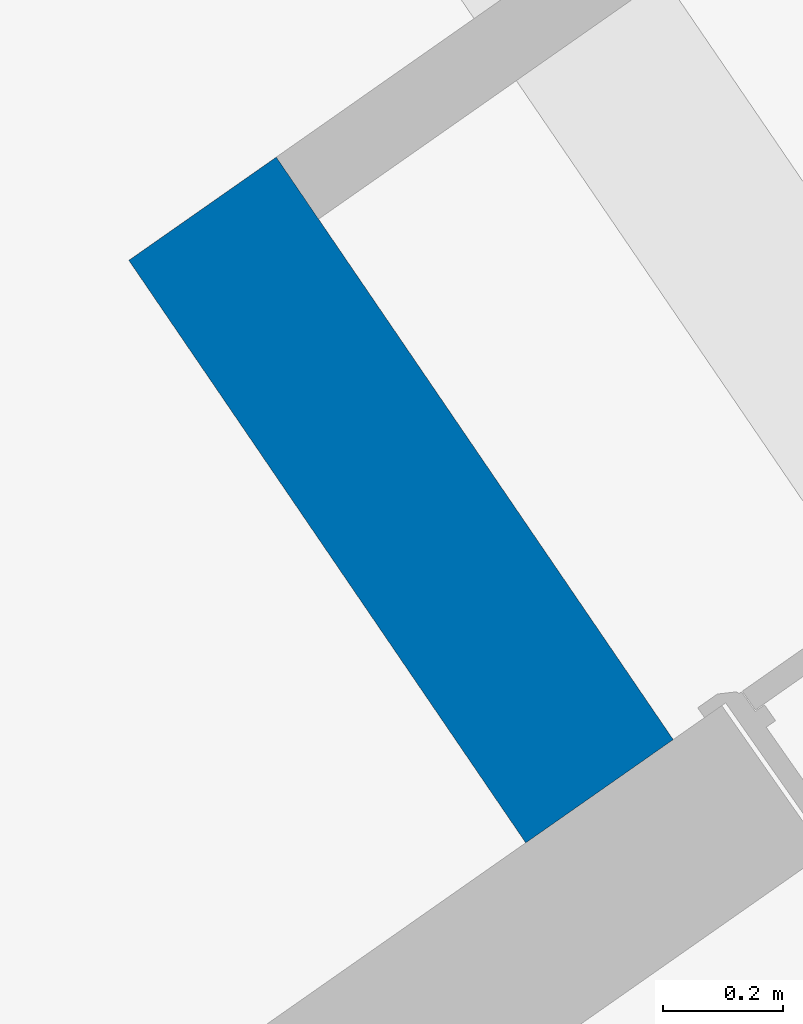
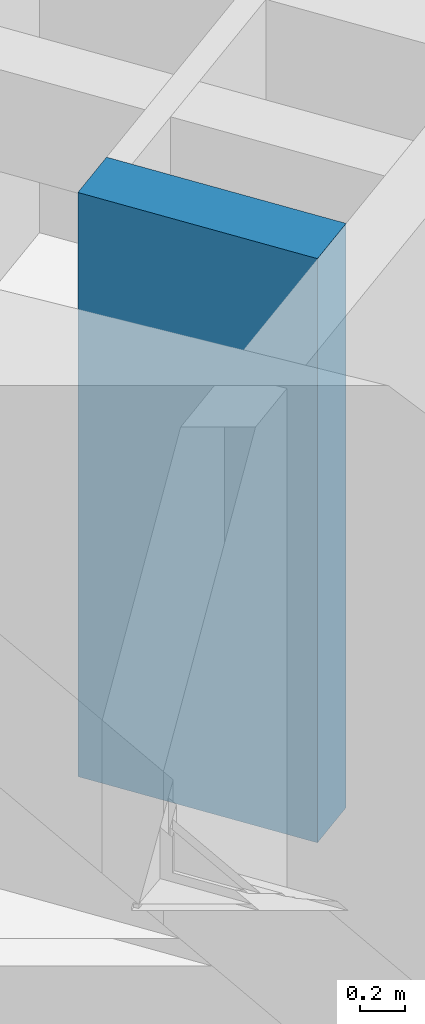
# One storey, part 22 of 112: 1 wall.
"""IFC2X3 building model written with IfcOpenShell, lengths in millimetres."""

from ifc_helpers import new_model, entity, si_unit, converted_unit, derived_unit, direction, frame, origin, place, context, subcontext, project, spatial, polyline, outline, extrude, material, layer, layer_set, layer_usage, type_object, element, save


model = new_model("IFC2X3")

# Units and contexts
model_context = context("Model", 3, precision=0.01, world=origin(), true_north=direction((6.123031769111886e-17, 1.0)))
body_context = subcontext(model_context, "Body", "Model", "MODEL_VIEW")
ifc_project = project(units=[si_unit("LENGTHUNIT", "METRE", prefix="MILLI"), si_unit("AREAUNIT", "SQUARE_METRE"), si_unit("VOLUMEUNIT", "CUBIC_METRE"), converted_unit("PLANEANGLEUNIT", "DEGREE", entity("IfcRatioMeasure", 0.017453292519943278), si_unit("PLANEANGLEUNIT", "RADIAN"), dimensions=[0, 0, 0, 0, 0, 0, 0]), si_unit("MASSUNIT", "GRAM", prefix="KILO"), derived_unit("MASSDENSITYUNIT", [(si_unit("MASSUNIT", "GRAM", prefix="KILO"), 1), (si_unit("LENGTHUNIT", "METRE"), -3)]), derived_unit("MOMENTOFINERTIAUNIT", [(si_unit("LENGTHUNIT", "METRE"), 4)]), si_unit("TIMEUNIT", "SECOND"), si_unit("FREQUENCYUNIT", "HERTZ"), si_unit("THERMODYNAMICTEMPERATUREUNIT", "DEGREE_CELSIUS"), derived_unit("THERMALTRANSMITTANCEUNIT", [(si_unit("MASSUNIT", "GRAM", prefix="KILO"), 1), (si_unit("THERMODYNAMICTEMPERATUREUNIT", "KELVIN"), -1), (si_unit("TIMEUNIT", "SECOND"), -3)]), derived_unit("THERMALCONDUCTANCEUNIT", [(si_unit("MASSUNIT", "GRAM", prefix="KILO"), 1), (si_unit("LENGTHUNIT", "METRE"), 1), (si_unit("THERMODYNAMICTEMPERATUREUNIT", "KELVIN"), -1), (si_unit("TIMEUNIT", "SECOND"), -3)]), derived_unit("VOLUMETRICFLOWRATEUNIT", [(si_unit("LENGTHUNIT", "METRE"), 3), (si_unit("TIMEUNIT", "SECOND"), -1)]), derived_unit("MASSFLOWRATEUNIT", [(si_unit("MASSUNIT", "GRAM", prefix="KILO"), 1), (si_unit("TIMEUNIT", "SECOND"), -1)]), derived_unit("ROTATIONALFREQUENCYUNIT", [(si_unit("TIMEUNIT", "SECOND"), -1)]), si_unit("ELECTRICCURRENTUNIT", "AMPERE"), si_unit("ELECTRICVOLTAGEUNIT", "VOLT"), si_unit("POWERUNIT", "WATT"), converted_unit("FORCEUNIT", "KIP", entity("IfcRatioMeasure", 2.088543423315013e-05), si_unit("FORCEUNIT", "NEWTON"), dimensions=[1, 1, -2, 0, 0, 0, 0]), si_unit("ILLUMINANCEUNIT", "LUX"), si_unit("LUMINOUSFLUXUNIT", "LUMEN"), si_unit("LUMINOUSINTENSITYUNIT", "CANDELA"), derived_unit("USERDEFINED", [(si_unit("MASSUNIT", "GRAM", prefix="KILO"), -1), (si_unit("LENGTHUNIT", "METRE"), -2), (si_unit("TIMEUNIT", "SECOND"), 3), (si_unit("LUMINOUSFLUXUNIT", "LUMEN"), 1)]), derived_unit("USERDEFINED", [(si_unit("MASSUNIT", "GRAM", prefix="KILO"), 1), (si_unit("LENGTHUNIT", "METRE"), 3), (si_unit("TIMEUNIT", "SECOND"), -3), (si_unit("ELECTRICCURRENTUNIT", "AMPERE"), -2)]), derived_unit("USERDEFINED", [(si_unit("LENGTHUNIT", "METRE"), 2), (si_unit("TIMEUNIT", "SECOND"), -2)]), derived_unit("SOUNDPOWERUNIT", [(si_unit("MASSUNIT", "GRAM", prefix="KILO"), 1), (si_unit("LENGTHUNIT", "METRE"), 2), (si_unit("TIMEUNIT", "SECOND"), -3)]), derived_unit("SOUNDPRESSUREUNIT", [(si_unit("MASSUNIT", "GRAM", prefix="KILO"), 1), (si_unit("LENGTHUNIT", "METRE"), -1), (si_unit("TIMEUNIT", "SECOND"), -2)]), derived_unit("LINEARVELOCITYUNIT", [(si_unit("LENGTHUNIT", "METRE"), 1), (si_unit("TIMEUNIT", "SECOND"), -1)]), si_unit("PRESSUREUNIT", "PASCAL"), derived_unit("USERDEFINED", [(si_unit("LENGTHUNIT", "METRE"), -2), (si_unit("MASSUNIT", "GRAM", prefix="KILO"), 1), (si_unit("TIMEUNIT", "SECOND"), -2)]), derived_unit("LINEARFORCEUNIT", [(si_unit("MASSUNIT", "GRAM", prefix="KILO"), 1), (si_unit("LENGTHUNIT", "METRE"), 1), (si_unit("TIMEUNIT", "SECOND"), -2), (si_unit("LENGTHUNIT", "METRE"), -1)]), derived_unit("PLANARFORCEUNIT", [(si_unit("MASSUNIT", "GRAM", prefix="KILO"), 1), (si_unit("LENGTHUNIT", "METRE"), 1), (si_unit("TIMEUNIT", "SECOND"), -2), (si_unit("LENGTHUNIT", "METRE"), -2)]), derived_unit("SPECIFICHEATCAPACITYUNIT", [(si_unit("LENGTHUNIT", "METRE"), 2), (si_unit("TIMEUNIT", "SECOND"), -2), (si_unit("THERMODYNAMICTEMPERATUREUNIT", "KELVIN"), -1)]), derived_unit("VAPORPERMEABILITYUNIT", [(si_unit("TIMEUNIT", "SECOND"), 1), (si_unit("LENGTHUNIT", "METRE"), -1)]), derived_unit("DYNAMICVISCOSITYUNIT", [(si_unit("MASSUNIT", "GRAM", prefix="KILO"), 1), (si_unit("LENGTHUNIT", "METRE"), -1), (si_unit("TIMEUNIT", "SECOND"), -1)]), derived_unit("THERMALEXPANSIONCOEFFICIENTUNIT", [(si_unit("THERMODYNAMICTEMPERATUREUNIT", "KELVIN"), -1)])], contexts=[model_context])

# Site, building, storey
site_placement = place(None, frame((0.0, 0.0, 0.0), z_axis=(0.0, 0.0, 1.0), x_axis=(0.8191520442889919, 0.5735764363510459, 0.0)))
site = spatial("IfcSite", under=ifc_project, at=site_placement, Name="Default", CompositionType="ELEMENT")
building_placement = place(site_placement, origin())
building = spatial("IfcBuilding", under=site, at=building_placement, CompositionType="ELEMENT")
storey_placement = place(building_placement, frame((0.0, 0.0, -3600.0)))
storey = spatial("IfcBuildingStorey", under=building, at=storey_placement, Name="0.UG -3.60", CompositionType="ELEMENT", Elevation=-3600.0000000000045)

# Wall
ifc_material = material(Name="Analytical Wall Surface_CJC")
ifc_layer = layer(ifc_material, 300.0)
ifc_layer_set = layer_set([ifc_layer], Name="Basic Wall:Wand_Innen_30")
ifc_layer_usage = layer_usage(ifc_layer_set, "AXIS2", "NEGATIVE", 150.0)
wall_type = type_object("IfcWallType", Name="Basic Wall:Wand_Innen_30", PredefinedType="STANDARD", material=ifc_layer_set)
wall_placement = place(storey_placement, frame((-220701.03390714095, 87969.44947620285, 300.0), z_axis=(0.0, 0.0, 1.0), x_axis=(0.012729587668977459, 0.9999189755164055, 0.0)))
element("IfcWallStandardCase", 1, at=wall_placement, inside=storey, type_object=wall_type, material=ifc_layer_usage, Name="Basic Wall:Wand_Innen_30", ObjectType="Basic Wall:Wand_Innen_30", context=body_context, shape_type="SweptSolid", body=[
    extrude(outline(polyline([(1178.9143972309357, -150.0), (1175.0952114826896, 150.0), (0.0, 150.0), (3.8191857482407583, -150.0), (1053.904268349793, -150.0), (1178.9143972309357, -150.0)])), origin(), (0.0, 0.0, 1.0), 3150.0),
])

save(model, "model.ifc")
